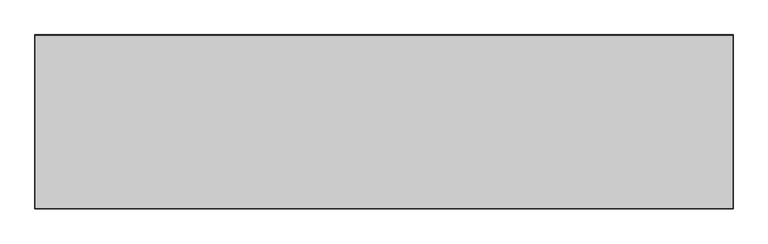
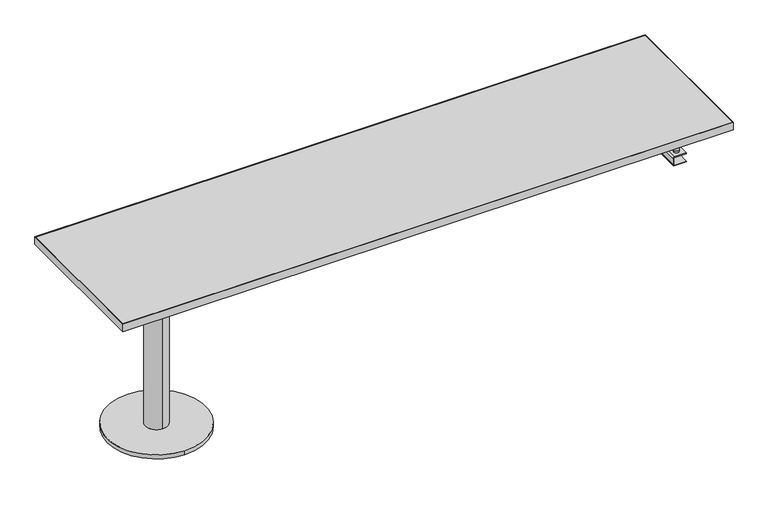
"""IFC4 building model written with IfcOpenShell, lengths in millimetres: furniture geometry, Steelcase Coalesse - Topo - Desktop - Freestanding Straight Ancillary : 96W x 24D - Left - Flat Edge."""

from ifc_helpers import new_model, si_unit, frame, origin, place, context, project, spatial, polyline, circle_curve, outline, extrude, source, transform, mapped, element, save
from ifc_brep_helpers import plane_surface, cylinder_surface, revolved_surface, advanced_brep


def furniture_8df6c61d(model_context):
    return source(origin(), model_context, "Body", "SolidModel", [
        advanced_brep(
        [(309.626, -501.6500363, 16.8148), (309.626, -107.9500363, 16.8148), (309.626, -260.3500363, 16.8148), (309.626, -349.2500363, 16.8148), (309.626, -501.6500363, 0.0), (309.626, -107.9500363, 0.0), (309.626, -349.2500363, 635.0), (309.626, -260.3500363, 635.0), (309.626, -269.8509568, 635.0), (309.626, -339.7491159, 635.0), (309.626, -339.7491159, 688.975), (309.626, -269.8509568, 688.975), (411.2261938, -203.2000242, 692.15), (208.0258062, -203.2000242, 692.15), (208.0258062, -406.4000484, 692.15), (411.2261938, -406.4000484, 692.15), (411.2261938, -203.2000242, 688.975), (411.2261938, -406.4000484, 688.975), (208.0258062, -406.4000484, 688.975), (208.0258062, -203.2000242, 688.975)],
        [
            (0, 1, circle_curve(frame((309.626, -304.8000363, 16.8148), z_axis=(0.0, 0.0, 1.0), x_axis=(0.0, 1.0, 0.0)), 196.85)),
            (1, 0, circle_curve(frame((309.626, -304.8000363, 16.8148), z_axis=(0.0, 0.0, 1.0), x_axis=(0.0, 1.0, 0.0)), 196.85)),
            (2, 3, circle_curve(frame((309.626, -304.8000363, 16.8148), z_axis=(0.0, 0.0, -1.0), x_axis=(0.0, 1.0, 0.0)), 44.45)),
            (3, 2, circle_curve(frame((309.626, -304.8000363, 16.8148), z_axis=(0.0, 0.0, -1.0), x_axis=(0.0, 1.0, 0.0)), 44.45)),
            (4, 5, circle_curve(frame((309.626, -304.8000363, 0.0), z_axis=(0.0, 0.0, -1.0), x_axis=(0.0, 1.0, 0.0)), 196.85)),
            (5, 4, circle_curve(frame((309.626, -304.8000363, 0.0), z_axis=(0.0, 0.0, -1.0), x_axis=(0.0, 1.0, 0.0)), 196.85)),
            (0, 4),
            (5, 1),
            (6, 7, circle_curve(frame((309.626, -304.8000363, 635.0), z_axis=(0.0, 0.0, 1.0), x_axis=(0.0, 1.0, 0.0)), 44.45)),
            (7, 6, circle_curve(frame((309.626, -304.8000363, 635.0), z_axis=(0.0, 0.0, 1.0), x_axis=(0.0, 1.0, 0.0)), 44.45)),
            (8, 9, circle_curve(frame((309.626, -304.8000363, 635.0), z_axis=(0.0, 0.0, -1.0), x_axis=(0.0, 1.0, 0.0)), 34.9490796)),
            (9, 8, circle_curve(frame((309.626, -304.8000363, 635.0), z_axis=(0.0, 0.0, -1.0), x_axis=(0.0, 1.0, 0.0)), 34.9490796)),
            (6, 3),
            (2, 7),
            (10, 9),
            (8, 11),
            (11, 10, circle_curve(frame((309.626, -304.8000363, 688.975), z_axis=(0.0, 0.0, -1.0), x_axis=(0.0, 1.0, 0.0)), 34.9490796)),
            (10, 11, circle_curve(frame((309.626, -304.8000363, 688.975), z_axis=(0.0, 0.0, -1.0), x_axis=(0.0, 1.0, 0.0)), 34.9490796)),
            (12, 13),
            (13, 14),
            (14, 15),
            (15, 12),
            (16, 17),
            (17, 18),
            (18, 19),
            (19, 16),
            (12, 16),
            (19, 13),
            (18, 14),
            (17, 15),
        ],
        [
            plane_surface(frame((309.626, -107.9500363, 16.8148), z_axis=(0.0, 0.0, 1.0), x_axis=(-1.0, 0.0, 0.0))),
            plane_surface(frame((309.626, -107.9500363, 0.0), z_axis=(0.0, 0.0, -1.0), x_axis=(1.0, 0.0, 0.0))),
            cylinder_surface(frame((309.626, -304.8000363, 0.0), z_axis=(0.0, 0.0, 1.0), x_axis=(0.0, 1.0, 0.0)), 196.85),
            plane_surface(frame((309.626, -260.3500363, 635.0), z_axis=(0.0, 0.0, 1.0), x_axis=(-1.0, 0.0, 0.0))),
            cylinder_surface(frame((309.626, -304.8000363, 0.0), z_axis=(0.0, 0.0, 1.0), x_axis=(0.0, 1.0, 0.0)), 44.45),
            cylinder_surface(frame((309.626, -304.8000363, 635.0), z_axis=(0.0, 0.0, 1.0), x_axis=(0.0, 1.0, 0.0)), 34.9490796),
            plane_surface(frame((208.0258062, -203.2000242, 692.15), z_axis=(0.0, 0.0, 1.0), x_axis=(-1.0, 0.0, 0.0))),
            plane_surface(frame((208.0258062, -203.2000242, 688.975), z_axis=(0.0, 0.0, -1.0), x_axis=(1.0, 0.0, 0.0))),
            plane_surface(frame((411.2261938, -203.2000242, 692.15), z_axis=(0.0, 1.0, 0.0), x_axis=(0.0, 0.0, -1.0))),
            plane_surface(frame((208.0258062, -203.2000242, 692.15), z_axis=(-1.0, 0.0, 0.0), x_axis=(0.0, 0.0, -1.0))),
            plane_surface(frame((208.0258062, -406.4000484, 692.15), z_axis=(0.0, -1.0, 0.0), x_axis=(0.0, 0.0, -1.0))),
            plane_surface(frame((411.2261938, -406.4000484, 692.15), z_axis=(1.0, 0.0, 0.0), x_axis=(0.0, 0.0, -1.0))),
        ],
        [
            (0, [[1, 2], [3, 4]]),
            (1, [[5, 6]]),
            (2, [[-1, 7, -6, 8]]),
            (2, [[-2, -8, -5, -7]]),
            (3, [[9, 10], [11, 12]]),
            (4, [[-9, 13, -3, 14]]),
            (4, [[-10, -14, -4, -13]]),
            (5, [[15, -11, 16, 17]]),
            (5, [[-15, 18, -16, -12]]),
            (6, [[19, 20, 21, 22]]),
            (7, [[23, 24, 25, 26], [-17, -18]]),
            (8, [[-19, 27, -26, 28]]),
            (9, [[-20, -28, -25, 29]]),
            (10, [[-21, -29, -24, 30]]),
            (11, [[-22, -30, -23, -27]]),
        ],
    ),
        extrude(outline(polyline([(2437.383783, -3.1750242), (2437.383783, -606.4250484), (1.016217, -606.4250484), (1.016217, -3.1750242), (2437.383783, -3.1750242)])), frame((0.0, 0.0, 692.15), z_axis=(0.0, 0.0, 1.0), x_axis=(1.0, 0.0, 0.0)), (0.0, 0.0, 1.0), 31.75),
        extrude(outline(polyline([(2438.4, 0.0), (2438.4, -609.6), (0.0, -609.6), (0.0, 0.0), (2438.4, 0.0)]), holes=[polyline([(2437.383783, -3.1750242), (1.016217, -3.1750242), (1.016217, -606.4250484), (2437.383783, -606.4250484), (2437.383783, -3.1750242)])]), frame((0.0, 0.0, 692.15), z_axis=(0.0, 0.0, 1.0), x_axis=(1.0, 0.0, 0.0)), (0.0, 0.0, 1.0), 31.75),
        extrude(outline(polyline([(-109.2200048, 691.1168589), (-127.2794, 691.1168589), (-127.2794, 682.2694), (-171.1706, 682.2694), (-171.1706, 691.1168589), (-189.2300194, 691.1168589), (-189.2300194, 692.15), (-170.18, 692.15), (-170.18, 683.304655), (-128.27, 683.304655), (-128.27, 692.15), (-109.2200048, 692.15), (-109.2200048, 691.1168589)])), frame((57.0738, 0.0, 0.0), z_axis=(1.0, 0.0, 0.0), x_axis=(0.0, 1.0, 0.0)), (0.0, 0.0, 1.0), 2324.2523581),
        extrude(outline(polyline([(-564.8960426, 691.1168589), (-564.8960426, 692.15), (-545.8460475, 692.15), (-545.8460475, 683.304655), (-503.9360475, 683.304655), (-503.9360475, 692.15), (-484.8860281, 692.15), (-484.8860281, 691.1168589), (-502.9454475, 691.1168589), (-502.9454475, 682.2694), (-546.8366475, 682.2694), (-546.8366475, 691.1168589), (-564.8960426, 691.1168589)])), frame((57.0738, 0.0, 0.0), z_axis=(1.0, 0.0, 0.0), x_axis=(0.0, 1.0, 0.0)), (0.0, 0.0, 1.0), 2324.2523581),
        advanced_brep(
        [(2330.4500969, -267.5128138, 692.15), (2266.9499031, -267.5128138, 692.15), (2266.9499031, -331.0127895, 692.15), (2330.4500969, -331.0127895, 692.15), (2330.4500969, -267.5128138, 688.975), (2330.4500969, -331.0127895, 688.975), (2266.9499031, -331.0127895, 688.975), (2266.9499031, -267.5128138, 688.975), (2298.7, -318.3128016, 688.975), (2298.7, -280.2128016, 688.975), (2298.7, -318.3128016, 655.6248), (2298.7, -280.2128016, 655.6248), (2298.7, -310.4626736, 655.6248), (2298.7, -288.0629297, 655.6248), (2298.7, -310.4626736, 621.2586), (2298.7, -288.0629297, 621.2586), (2298.7, -314.5105403, 621.2586), (2298.7, -284.015063, 621.2586), (2298.7, -314.5105403, 615.1626), (2298.7, -284.015063, 615.1626), (2298.7, -311.9628016, 615.1626), (2298.7, -286.5628016, 615.1626), (2298.7, -311.9628016, 609.4984), (2298.7, -286.5628016, 609.4984)],
        [
            (0, 1),
            (1, 2),
            (2, 3),
            (3, 0),
            (4, 5),
            (5, 6),
            (6, 7),
            (7, 4),
            (8, 9, circle_curve(frame((2298.7, -299.2628016, 688.975), z_axis=(0.0, 0.0, 1.0), x_axis=(0.0, 1.0, 0.0)), 19.05)),
            (9, 8, circle_curve(frame((2298.7, -299.2628016, 688.975), z_axis=(0.0, 0.0, 1.0), x_axis=(0.0, 1.0, 0.0)), 19.05)),
            (0, 4),
            (7, 1),
            (6, 2),
            (5, 3),
            (10, 11, circle_curve(frame((2298.7, -299.2628016, 655.6248), z_axis=(0.0, 0.0, -1.0), x_axis=(0.0, 1.0, 0.0)), 19.05)),
            (11, 10, circle_curve(frame((2298.7, -299.2628016, 655.6248), z_axis=(0.0, 0.0, -1.0), x_axis=(0.0, 1.0, 0.0)), 19.05)),
            (12, 13, circle_curve(frame((2298.7, -299.2628016, 655.6248), z_axis=(0.0, 0.0, 1.0), x_axis=(0.0, 1.0, 0.0)), 11.1998719)),
            (13, 12, circle_curve(frame((2298.7, -299.2628016, 655.6248), z_axis=(0.0, 0.0, 1.0), x_axis=(0.0, 1.0, 0.0)), 11.1998719)),
            (11, 9),
            (8, 10),
            (12, 14),
            (14, 15, circle_curve(frame((2298.7, -299.2628016, 621.2586), z_axis=(0.0, 0.0, 1.0), x_axis=(0.0, 1.0, 0.0)), 11.1998719)),
            (15, 13),
            (15, 14, circle_curve(frame((2298.7, -299.2628016, 621.2586), z_axis=(0.0, 0.0, 1.0), x_axis=(0.0, 1.0, 0.0)), 11.1998719)),
            (16, 17, circle_curve(frame((2298.7, -299.2628016, 621.2586), z_axis=(0.0, 0.0, 1.0), x_axis=(0.0, 1.0, 0.0)), 15.2477387)),
            (17, 16, circle_curve(frame((2298.7, -299.2628016, 621.2586), z_axis=(0.0, 0.0, 1.0), x_axis=(0.0, 1.0, 0.0)), 15.2477387)),
            (18, 19, circle_curve(frame((2298.7, -299.2628016, 615.1626), z_axis=(0.0, 0.0, -1.0), x_axis=(0.0, 1.0, 0.0)), 15.2477387)),
            (19, 18, circle_curve(frame((2298.7, -299.2628016, 615.1626), z_axis=(0.0, 0.0, -1.0), x_axis=(0.0, 1.0, 0.0)), 15.2477387)),
            (20, 21, circle_curve(frame((2298.7, -299.2628016, 615.1626), z_axis=(0.0, 0.0, 1.0), x_axis=(0.0, 1.0, 0.0)), 12.7)),
            (21, 20, circle_curve(frame((2298.7, -299.2628016, 615.1626), z_axis=(0.0, 0.0, 1.0), x_axis=(0.0, 1.0, 0.0)), 12.7)),
            (16, 18),
            (19, 17),
            (22, 23, circle_curve(frame((2298.7, -299.2628016, 609.4984), z_axis=(0.0, 0.0, -1.0), x_axis=(0.0, 1.0, 0.0)), 12.7)),
            (23, 22, circle_curve(frame((2298.7, -299.2628016, 609.4984), z_axis=(0.0, 0.0, -1.0), x_axis=(0.0, 1.0, 0.0)), 12.7)),
            (23, 21),
            (20, 22),
        ],
        [
            plane_surface(frame((2266.9499031, -267.5128138, 692.15), z_axis=(0.0, 0.0, 1.0), x_axis=(-1.0, 0.0, 0.0))),
            plane_surface(frame((2266.9499031, -267.5128138, 688.975), z_axis=(0.0, 0.0, -1.0), x_axis=(1.0, 0.0, 0.0))),
            plane_surface(frame((2330.4500969, -267.5128138, 692.15), z_axis=(0.0, 1.0, 0.0), x_axis=(0.0, 0.0, -1.0))),
            plane_surface(frame((2266.9499031, -267.5128138, 692.15), z_axis=(-1.0, 0.0, 0.0), x_axis=(0.0, 0.0, -1.0))),
            plane_surface(frame((2266.9499031, -331.0127895, 692.15), z_axis=(0.0, -1.0, 0.0), x_axis=(0.0, 0.0, -1.0))),
            plane_surface(frame((2330.4500969, -331.0127895, 692.15), z_axis=(1.0, 0.0, 0.0), x_axis=(0.0, 0.0, -1.0))),
            plane_surface(frame((2298.7, -280.2128016, 655.6248), z_axis=(0.0, 0.0, -1.0), x_axis=(1.0, 0.0, 0.0))),
            cylinder_surface(frame((2298.7, -299.2628016, 655.6248), z_axis=(0.0, 0.0, 1.0), x_axis=(0.0, 1.0, 0.0)), 19.05),
            cylinder_surface(frame((2298.7, -299.2628016, 621.2586), z_axis=(0.0, 0.0, 1.0), x_axis=(0.0, 1.0, 0.0)), 11.1998719),
            plane_surface(frame((2298.7, -284.015063, 621.2586), z_axis=(0.0, 0.0, 1.0), x_axis=(-1.0, 0.0, 0.0))),
            plane_surface(frame((2298.7, -284.015063, 615.1626), z_axis=(0.0, 0.0, -1.0), x_axis=(1.0, 0.0, 0.0))),
            cylinder_surface(frame((2298.7, -299.2628016, 615.1626), z_axis=(0.0, 0.0, 1.0), x_axis=(0.0, 1.0, 0.0)), 15.2477387),
            plane_surface(frame((2298.7, -286.5628016, 609.4984), z_axis=(0.0, 0.0, -1.0), x_axis=(1.0, 0.0, 0.0))),
            cylinder_surface(frame((2298.7, -299.2628016, 609.4984), z_axis=(0.0, 0.0, 1.0), x_axis=(0.0, 1.0, 0.0)), 12.7),
        ],
        [
            (0, [[1, 2, 3, 4]]),
            (1, [[5, 6, 7, 8], [9, 10]]),
            (2, [[-1, 11, -8, 12]]),
            (3, [[-2, -12, -7, 13]]),
            (4, [[-3, -13, -6, 14]]),
            (5, [[-4, -14, -5, -11]]),
            (6, [[15, 16], [17, 18]]),
            (7, [[-16, 19, -9, 20]]),
            (7, [[-15, -20, -10, -19]]),
            (8, [[21, 22, 23, -17]]),
            (8, [[-21, -18, -23, 24]]),
            (9, [[25, 26], [-22, -24]]),
            (10, [[27, 28], [29, 30]]),
            (11, [[-25, 31, -28, 32]]),
            (11, [[-26, -32, -27, -31]]),
            (12, [[33, 34]]),
            (13, [[-34, 35, -29, 36]]),
            (13, [[-33, -36, -30, -35]]),
        ],
    ),
        advanced_brep(
        [(2237.8422055, -550.2910475, 612.0384), (2232.7622153, -550.2910475, 606.9584098), (2232.7622153, -550.2910475, 580.2884171), (2237.8422323, -550.2910475, 575.2084), (2286.1019827, -550.2910475, 575.2084), (2286.1019827, -550.2910475, 577.7484), (2237.8419827, -550.2910475, 577.7484), (2235.3021765, -550.2910475, 580.2882062), (2235.3021765, -550.2910475, 606.9584098), (2237.8421667, -550.2910475, 609.4984), (2286.1019827, -550.2910475, 609.4984), (2286.1019827, -550.2910475, 612.0384), (2237.8422055, -124.840999, 612.0384), (2286.1019827, -124.840999, 612.0384), (2286.1019827, -124.840999, 609.4984), (2237.8421667, -124.840999, 609.4984), (2235.3021765, -124.840999, 606.9584098), (2235.3021765, -124.840999, 580.2882062), (2237.8419827, -124.840999, 577.7484), (2286.1019827, -124.840999, 577.7484), (2286.1019827, -124.840999, 575.2084), (2237.8422323, -124.840999, 575.2084), (2232.7622153, -124.840999, 580.2884171), (2232.7622153, -124.840999, 606.9584098), (2286.1019827, -180.7210184, 575.2084), (2241.651789, -180.7210184, 575.2084), (2241.651789, -493.3950291, 575.2084), (2286.1019827, -493.3950291, 575.2084), (2286.1019827, -493.3950291, 577.7484), (2286.1019827, -180.7210184, 577.7484), (2241.651789, -493.3950291, 577.7484), (2241.651789, -180.7210184, 577.7484), (2286.1019827, -180.7210184, 609.4984), (2241.651789, -180.7210184, 609.4984), (2241.651789, -493.3950291, 609.4984), (2286.1019827, -493.3950291, 609.4984), (2286.1019827, -493.3950291, 612.0384), (2286.1019827, -180.7210184, 612.0384), (2241.651789, -493.3950291, 612.0384), (2241.651789, -180.7210184, 612.0384), (2270.353789, -523.9179378, 612.0384), (2251.049789, -523.9179378, 612.0384), (2270.353789, -150.1981097, 612.0384), (2251.049789, -150.1981097, 612.0384), (2292.4523703, -498.4749516, 682.2694), (2228.951789, -498.4749516, 682.2694), (2222.601789, -504.8249516, 682.2694), (2222.601789, -543.010924, 682.2694), (2229.9925794, -549.2750484, 682.2694), (2291.4115798, -549.2750484, 682.2694), (2298.801789, -542.925, 682.2694), (2298.801789, -504.9108755, 682.2694), (2292.4523703, -175.6410959, 682.2694), (2298.801789, -169.2051719, 682.2694), (2298.801789, -131.1910475, 682.2694), (2291.4115798, -124.840999, 682.2694), (2229.9925794, -124.840999, 682.2694), (2222.601789, -131.1051235, 682.2694), (2222.601789, -169.2910959, 682.2694), (2228.951789, -175.6410959, 682.2694), (2292.4523703, -498.4749516, 679.0944), (2298.801789, -504.9108755, 679.0944), (2298.801789, -542.925, 679.0944), (2291.4115798, -549.2750484, 679.0944), (2229.9925794, -549.2750484, 679.0944), (2222.601789, -543.010924, 679.0944), (2222.601789, -504.8249516, 679.0944), (2228.951789, -498.4749516, 679.0944), (2271.877789, -523.9179378, 679.0944), (2249.525789, -523.9179378, 679.0944), (2292.4523703, -175.6410959, 679.0944), (2228.951789, -175.6410959, 679.0944), (2222.601789, -169.2910959, 679.0944), (2222.601789, -131.1051235, 679.0944), (2229.9925794, -124.840999, 679.0944), (2291.4115798, -124.840999, 679.0944), (2298.801789, -131.1910475, 679.0944), (2298.801789, -169.2051719, 679.0944), (2271.877789, -150.1981097, 679.0944), (2249.525789, -150.1981097, 679.0944), (2251.049789, -523.9179378, 621.2586), (2270.353789, -523.9179378, 621.2586), (2251.049789, -150.1981097, 621.2586), (2270.353789, -150.1981097, 621.2586), (2271.877789, -523.9179378, 621.2586), (2249.525789, -523.9179378, 621.2586), (2271.877789, -150.1981097, 621.2586), (2249.525789, -150.1981097, 621.2586)],
        [
            (0, 1, circle_curve(frame((2237.8422055, -550.2910475, 606.9584098), z_axis=(0.0, -1.0, 0.0), x_axis=(1.0, 0.0, 0.0)), 5.0799902)),
            (1, 2),
            (2, 3, circle_curve(frame((2237.8422323, -550.2910475, 580.2884171), z_axis=(0.0, -1.0, 0.0), x_axis=(1.0, 0.0, 0.0)), 5.0800171)),
            (3, 4),
            (4, 5),
            (5, 6),
            (6, 7, circle_curve(frame((2237.8419827, -550.2910475, 580.2882062), z_axis=(0.0, 1.0, 0.0), x_axis=(1.0, 0.0, 0.0)), 2.5398062)),
            (7, 8),
            (8, 9, circle_curve(frame((2237.8421667, -550.2910475, 606.9584098), z_axis=(0.0, 1.0, 0.0), x_axis=(1.0, 0.0, 0.0)), 2.5399902)),
            (9, 10),
            (10, 11),
            (11, 0),
            (12, 13),
            (13, 14),
            (14, 15),
            (15, 16, circle_curve(frame((2237.8421667, -124.840999, 606.9584098), z_axis=(0.0, -1.0, 0.0), x_axis=(1.0, 0.0, 0.0)), 2.5399902)),
            (16, 17),
            (17, 18, circle_curve(frame((2237.8419827, -124.840999, 580.2882062), z_axis=(0.0, -1.0, 0.0), x_axis=(1.0, 0.0, 0.0)), 2.5398062)),
            (18, 19),
            (19, 20),
            (20, 21),
            (21, 22, circle_curve(frame((2237.8422323, -124.840999, 580.2884171), z_axis=(0.0, 1.0, 0.0), x_axis=(1.0, 0.0, 0.0)), 5.0800171)),
            (22, 23),
            (23, 12, circle_curve(frame((2237.8422055, -124.840999, 606.9584098), z_axis=(0.0, 1.0, 0.0), x_axis=(1.0, 0.0, 0.0)), 5.0799902)),
            (0, 12),
            (23, 1),
            (22, 2),
            (21, 3),
            (20, 24),
            (24, 25),
            (25, 26),
            (26, 27),
            (27, 4),
            (27, 28),
            (28, 5),
            (19, 29),
            (29, 24),
            (28, 30),
            (30, 31),
            (31, 29),
            (18, 6),
            (17, 7),
            (16, 8),
            (15, 9),
            (14, 32),
            (32, 33),
            (33, 34),
            (34, 35),
            (35, 10),
            (35, 36),
            (36, 11),
            (13, 37),
            (37, 32),
            (36, 38),
            (38, 39),
            (39, 37),
            (40, 41, circle_curve(frame((2260.701789, -523.9179378, 612.0384), z_axis=(0.0, 0.0, -1.0), x_axis=(1.0, 0.0, 0.0)), 9.652)),
            (41, 40, circle_curve(frame((2260.701789, -523.9179378, 612.0384), z_axis=(0.0, 0.0, -1.0), x_axis=(1.0, 0.0, 0.0)), 9.652)),
            (42, 43, circle_curve(frame((2260.701789, -150.1981097, 612.0384), z_axis=(0.0, 0.0, -1.0), x_axis=(1.0, 0.0, 0.0)), 9.652)),
            (43, 42, circle_curve(frame((2260.701789, -150.1981097, 612.0384), z_axis=(0.0, 0.0, -1.0), x_axis=(1.0, 0.0, 0.0)), 9.652)),
            (31, 25),
            (39, 33),
            (26, 30),
            (34, 38),
            (44, 45),
            (45, 46, circle_curve(frame((2228.951789, -504.8249516, 682.2694), z_axis=(0.0, 0.0, 1.0), x_axis=(1.0, 0.0, 0.0)), 6.35)),
            (46, 47),
            (47, 48, circle_curve(frame((2228.951789, -543.010924, 682.2694), z_axis=(0.0, 0.0, 1.0), x_axis=(1.0, 0.0, 0.0)), 6.35)),
            (48, 49),
            (49, 50, circle_curve(frame((2292.4523703, -543.010924, 682.2694), z_axis=(0.0, 0.0, 1.0), x_axis=(1.0, 0.0, 0.0)), 6.35)),
            (50, 51),
            (51, 44, circle_curve(frame((2292.4523703, -504.8249516, 682.2694), z_axis=(0.0, 0.0, 1.0), x_axis=(1.0, 0.0, 0.0)), 6.35)),
            (52, 53, circle_curve(frame((2292.4523703, -169.2910959, 682.2694), z_axis=(0.0, 0.0, 1.0), x_axis=(1.0, 0.0, 0.0)), 6.35)),
            (53, 54),
            (54, 55, circle_curve(frame((2292.4523703, -131.1051235, 682.2694), z_axis=(0.0, 0.0, 1.0), x_axis=(1.0, 0.0, 0.0)), 6.35)),
            (55, 56),
            (56, 57, circle_curve(frame((2228.951789, -131.1051235, 682.2694), z_axis=(0.0, 0.0, 1.0), x_axis=(1.0, 0.0, 0.0)), 6.35)),
            (57, 58),
            (58, 59, circle_curve(frame((2228.951789, -169.2910959, 682.2694), z_axis=(0.0, 0.0, 1.0), x_axis=(1.0, 0.0, 0.0)), 6.35)),
            (59, 52),
            (60, 61, circle_curve(frame((2292.4523703, -504.8249516, 679.0944), z_axis=(0.0, 0.0, -1.0), x_axis=(1.0, 0.0, 0.0)), 6.35)),
            (61, 62),
            (62, 63, circle_curve(frame((2292.4523703, -543.010924, 679.0944), z_axis=(0.0, 0.0, -1.0), x_axis=(1.0, 0.0, 0.0)), 6.35)),
            (63, 64),
            (64, 65, circle_curve(frame((2228.951789, -543.010924, 679.0944), z_axis=(0.0, 0.0, -1.0), x_axis=(1.0, 0.0, 0.0)), 6.35)),
            (65, 66),
            (66, 67, circle_curve(frame((2228.951789, -504.8249516, 679.0944), z_axis=(0.0, 0.0, -1.0), x_axis=(1.0, 0.0, 0.0)), 6.35)),
            (67, 60),
            (68, 69, circle_curve(frame((2260.701789, -523.9179378, 679.0944), z_axis=(0.0, 0.0, 1.0), x_axis=(1.0, 0.0, 0.0)), 11.176)),
            (69, 68, circle_curve(frame((2260.701789, -523.9179378, 679.0944), z_axis=(0.0, 0.0, 1.0), x_axis=(1.0, 0.0, 0.0)), 11.176)),
            (70, 71),
            (71, 72, circle_curve(frame((2228.951789, -169.2910959, 679.0944), z_axis=(0.0, 0.0, -1.0), x_axis=(1.0, 0.0, 0.0)), 6.35)),
            (72, 73),
            (73, 74, circle_curve(frame((2228.951789, -131.1051235, 679.0944), z_axis=(0.0, 0.0, -1.0), x_axis=(1.0, 0.0, 0.0)), 6.35)),
            (74, 75),
            (75, 76, circle_curve(frame((2292.4523703, -131.1051235, 679.0944), z_axis=(0.0, 0.0, -1.0), x_axis=(1.0, 0.0, 0.0)), 6.35)),
            (76, 77),
            (77, 70, circle_curve(frame((2292.4523703, -169.2910959, 679.0944), z_axis=(0.0, 0.0, -1.0), x_axis=(1.0, 0.0, 0.0)), 6.35)),
            (78, 79, circle_curve(frame((2260.701789, -150.1981097, 679.0944), z_axis=(0.0, 0.0, 1.0), x_axis=(1.0, 0.0, 0.0)), 11.176)),
            (79, 78, circle_curve(frame((2260.701789, -150.1981097, 679.0944), z_axis=(0.0, 0.0, 1.0), x_axis=(1.0, 0.0, 0.0)), 11.176)),
            (44, 60),
            (67, 45),
            (66, 46),
            (65, 47),
            (64, 48),
            (63, 49),
            (62, 50),
            (61, 51),
            (52, 70),
            (77, 53),
            (76, 54),
            (75, 55),
            (74, 56),
            (73, 57),
            (72, 58),
            (71, 59),
            (80, 41),
            (40, 81),
            (81, 80, circle_curve(frame((2260.701789, -523.9179378, 621.2586), z_axis=(0.0, 0.0, -1.0), x_axis=(1.0, 0.0, 0.0)), 9.652)),
            (80, 81, circle_curve(frame((2260.701789, -523.9179378, 621.2586), z_axis=(0.0, 0.0, -1.0), x_axis=(1.0, 0.0, 0.0)), 9.652)),
            (82, 43),
            (42, 83),
            (83, 82, circle_curve(frame((2260.701789, -150.1981097, 621.2586), z_axis=(0.0, 0.0, -1.0), x_axis=(1.0, 0.0, 0.0)), 9.652)),
            (82, 83, circle_curve(frame((2260.701789, -150.1981097, 621.2586), z_axis=(0.0, 0.0, -1.0), x_axis=(1.0, 0.0, 0.0)), 9.652)),
            (84, 85, circle_curve(frame((2260.701789, -523.9179378, 621.2586), z_axis=(0.0, 0.0, -1.0), x_axis=(1.0, 0.0, 0.0)), 11.176)),
            (85, 84, circle_curve(frame((2260.701789, -523.9179378, 621.2586), z_axis=(0.0, 0.0, -1.0), x_axis=(1.0, 0.0, 0.0)), 11.176)),
            (86, 87, circle_curve(frame((2260.701789, -150.1981097, 621.2586), z_axis=(0.0, 0.0, -1.0), x_axis=(1.0, 0.0, 0.0)), 11.176)),
            (87, 86, circle_curve(frame((2260.701789, -150.1981097, 621.2586), z_axis=(0.0, 0.0, -1.0), x_axis=(1.0, 0.0, 0.0)), 11.176)),
            (85, 69),
            (68, 84),
            (87, 79),
            (78, 86),
        ],
        [
            plane_surface(frame((2242.9221957, -550.2910475, 606.9584098), z_axis=(0.0, -1.0, 0.0), x_axis=(0.0, 0.0, 1.0))),
            plane_surface(frame((2242.9221957, -124.840999, 606.9584098), z_axis=(0.0, 1.0, 0.0), x_axis=(0.0, 0.0, -1.0))),
            cylinder_surface(frame((2237.8422055, -124.840999, 606.9584098), z_axis=(0.0, -1.0, 0.0), x_axis=(1.0, 0.0, 0.0)), 5.0799902),
            plane_surface(frame((2232.7622153, -550.2910475, 606.9584098), z_axis=(-1.0, 0.0, 0.0), x_axis=(0.0, 1.0, 0.0))),
            cylinder_surface(frame((2237.8422323, -124.840999, 580.2884171), z_axis=(0.0, -1.0, 0.0), x_axis=(1.0, 0.0, 0.0)), 5.0800171),
            plane_surface(frame((2237.8422323, -550.2910475, 575.2084), z_axis=(0.0, 0.0, -1.0), x_axis=(0.0, 1.0, 0.0))),
            plane_surface(frame((2286.1019827, -550.2910475, 575.2084), z_axis=(1.0, 0.0, 0.0), x_axis=(0.0, 1.0, 0.0))),
            plane_surface(frame((2286.1019827, -550.2910475, 577.7484), z_axis=(0.0, 0.0, 1.0), x_axis=(0.0, 1.0, 0.0))),
            revolved_surface(polyline([(2240.3817888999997, -124.840999, 580.2882062), (2240.3817888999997, -550.2910475, 580.2882062)]), (2237.8419827, -124.840999, 580.2882062), (0.0, 1.0, 0.0)),
            plane_surface(frame((2235.3021765, -550.2910475, 580.2882062), z_axis=(1.0, 0.0, 0.0), x_axis=(0.0, 1.0, 0.0))),
            revolved_surface(polyline([(2240.3821568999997, -124.840999, 606.9584098), (2240.3821568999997, -550.2910475, 606.9584098)]), (2237.8421667, -124.840999, 606.9584098), (0.0, 1.0, 0.0)),
            plane_surface(frame((2237.8421667, -550.2910475, 609.4984), z_axis=(0.0, 0.0, -1.0), x_axis=(0.0, 1.0, 0.0))),
            plane_surface(frame((2286.1019827, -550.2910475, 609.4984), z_axis=(1.0, 0.0, 0.0), x_axis=(0.0, 1.0, 0.0))),
            plane_surface(frame((2286.1019827, -550.2910475, 612.0384), z_axis=(0.0, 0.0, 1.0), x_axis=(0.0, 1.0, 0.0))),
            plane_surface(frame((2241.651789, -180.7210184, 575.2084), z_axis=(0.0, -1.0, 0.0), x_axis=(0.0, 0.0, 1.0))),
            plane_surface(frame((2286.1019827, -493.3950291, 575.2084), z_axis=(0.0, 1.0, 0.0), x_axis=(0.0, 0.0, 1.0))),
            plane_surface(frame((2241.651789, -493.3950291, 575.2084), z_axis=(1.0, 0.0, 0.0), x_axis=(0.0, 0.0, 1.0))),
            plane_surface(frame((2228.951789, -498.4749516, 682.2694), z_axis=(0.0, 0.0, 1.0), x_axis=(-1.0, 0.0, 0.0))),
            plane_surface(frame((2228.951789, -498.4749516, 679.0944), z_axis=(0.0, 0.0, -1.0), x_axis=(1.0, 0.0, 0.0))),
            plane_surface(frame((2292.4523703, -498.4749516, 682.2694), z_axis=(0.0, 1.0, 0.0), x_axis=(0.0, 0.0, -1.0))),
            cylinder_surface(frame((2228.951789, -504.8249516, 679.0944), z_axis=(0.0, 0.0, 1.0), x_axis=(1.0, 0.0, 0.0)), 6.35),
            plane_surface(frame((2222.601789, -504.8249516, 682.2694), z_axis=(-1.0, 0.0, 0.0), x_axis=(0.0, 0.0, -1.0))),
            cylinder_surface(frame((2228.951789, -543.010924, 679.0944), z_axis=(0.0, 0.0, 1.0), x_axis=(1.0, 0.0, 0.0)), 6.35),
            plane_surface(frame((2229.9925794, -549.2750484, 682.2694), z_axis=(0.0, -1.0, 0.0), x_axis=(0.0, 0.0, -1.0))),
            cylinder_surface(frame((2292.4523703, -543.010924, 679.0944), z_axis=(0.0, 0.0, 1.0), x_axis=(1.0, 0.0, 0.0)), 6.35),
            plane_surface(frame((2298.801789, -542.925, 682.2694), z_axis=(1.0, 0.0, 0.0), x_axis=(0.0, 0.0, -1.0))),
            cylinder_surface(frame((2292.4523703, -504.8249516, 679.0944), z_axis=(0.0, 0.0, 1.0), x_axis=(1.0, 0.0, 0.0)), 6.35),
            cylinder_surface(frame((2292.4523703, -169.2910959, 0.0), z_axis=(0.0, 0.0, 1.0), x_axis=(1.0, 0.0, 0.0)), 6.35),
            plane_surface(frame((2298.801789, -169.2051719, 682.2694), z_axis=(1.0, 0.0, 0.0), x_axis=(0.0, 0.0, -1.0))),
            cylinder_surface(frame((2292.4523703, -131.1051235, 0.0), z_axis=(0.0, 0.0, 1.0), x_axis=(1.0, 0.0, 0.0)), 6.35),
            plane_surface(frame((2291.4115798, -124.840999, 682.2694), z_axis=(0.0, 1.0, 0.0), x_axis=(0.0, 0.0, -1.0))),
            cylinder_surface(frame((2228.951789, -131.1051235, 0.0), z_axis=(0.0, 0.0, 1.0), x_axis=(1.0, 0.0, 0.0)), 6.35),
            plane_surface(frame((2222.601789, -131.1051235, 682.2694), z_axis=(-1.0, 0.0, 0.0), x_axis=(0.0, 0.0, -1.0))),
            cylinder_surface(frame((2228.951789, -169.2910959, 0.0), z_axis=(0.0, 0.0, 1.0), x_axis=(1.0, 0.0, 0.0)), 6.35),
            plane_surface(frame((2228.951789, -175.6410959, 682.2694), z_axis=(0.0, -1.0, 0.0), x_axis=(0.0, 0.0, -1.0))),
            cylinder_surface(frame((2260.701789, -523.9179378, 612.0384), z_axis=(0.0, 0.0, 1.0), x_axis=(1.0, 0.0, 0.0)), 9.652),
            cylinder_surface(frame((2260.701789, -150.1981097, 0.0), z_axis=(0.0, 0.0, 1.0), x_axis=(1.0, 0.0, 0.0)), 9.652),
            plane_surface(frame((2271.877789, -523.9179378, 621.2586), z_axis=(0.0, 0.0, -1.0), x_axis=(0.0, -1.0, 0.0))),
            cylinder_surface(frame((2260.701789, -523.9179378, 621.2586), z_axis=(0.0, 0.0, 1.0), x_axis=(1.0, 0.0, 0.0)), 11.176),
            cylinder_surface(frame((2260.701789, -150.1981097, 0.0), z_axis=(0.0, 0.0, 1.0), x_axis=(1.0, 0.0, 0.0)), 11.176),
        ],
        [
            (0, [[1, 2, 3, 4, 5, 6, 7, 8, 9, 10, 11, 12]]),
            (1, [[13, 14, 15, 16, 17, 18, 19, 20, 21, 22, 23, 24]]),
            (2, [[-1, 25, -24, 26]]),
            (3, [[-2, -26, -23, 27]]),
            (4, [[-3, -27, -22, 28]]),
            (5, [[-4, -28, -21, 29, 30, 31, 32, 33]]),
            (6, [[-5, -33, 34, 35]]),
            (6, [[-20, 36, 37, -29]]),
            (7, [[-6, -35, 38, 39, 40, -36, -19, 41]]),
            (8, [[-7, -41, -18, 42]]),
            (9, [[-8, -42, -17, 43]]),
            (10, [[-9, -43, -16, 44]]),
            (11, [[-10, -44, -15, 45, 46, 47, 48, 49]]),
            (12, [[-11, -49, 50, 51]]),
            (12, [[-14, 52, 53, -45]]),
            (13, [[-12, -51, 54, 55, 56, -52, -13, -25], [57, 58], [59, 60]]),
            (14, [[61, -30, -37, -40]]),
            (14, [[62, -46, -53, -56]]),
            (15, [[63, -38, -34, -32]]),
            (15, [[64, -54, -50, -48]]),
            (16, [[-61, -39, -63, -31]]),
            (16, [[-62, -55, -64, -47]]),
            (17, [[65, 66, 67, 68, 69, 70, 71, 72]]),
            (17, [[73, 74, 75, 76, 77, 78, 79, 80]]),
            (18, [[81, 82, 83, 84, 85, 86, 87, 88], [89, 90]]),
            (18, [[91, 92, 93, 94, 95, 96, 97, 98], [99, 100]]),
            (19, [[-65, 101, -88, 102]]),
            (20, [[-66, -102, -87, 103]]),
            (21, [[-67, -103, -86, 104]]),
            (22, [[-68, -104, -85, 105]]),
            (23, [[-69, -105, -84, 106]]),
            (24, [[-70, -106, -83, 107]]),
            (25, [[-71, -107, -82, 108]]),
            (26, [[-72, -108, -81, -101]]),
            (27, [[-73, 109, -98, 110]]),
            (28, [[-74, -110, -97, 111]]),
            (29, [[-75, -111, -96, 112]]),
            (30, [[-76, -112, -95, 113]]),
            (31, [[-77, -113, -94, 114]]),
            (32, [[-78, -114, -93, 115]]),
            (33, [[-79, -115, -92, 116]]),
            (34, [[-80, -116, -91, -109]]),
            (35, [[117, -57, 118, 119]]),
            (35, [[-117, 120, -118, -58]]),
            (36, [[121, -59, 122, 123]]),
            (36, [[-121, 124, -122, -60]]),
            (37, [[125, 126], [-119, -120]]),
            (37, [[127, 128], [-123, -124]]),
            (38, [[-126, 129, -89, 130]]),
            (38, [[-125, -130, -90, -129]]),
            (39, [[-128, 131, -99, 132]]),
            (39, [[-127, -132, -100, -131]]),
        ],
    ),
    ])


if __name__ == "__main__":
    model = new_model("IFC4")
    model_context = context("Model", 3, world=origin())
    ifc_project = project(units=[si_unit("LENGTHUNIT", "METRE", prefix="MILLI")], contexts=[model_context])
    site = spatial("IfcSite", under=ifc_project)
    building = spatial("IfcBuilding", under=site)
    placement = place(None, origin())
    furniture_shape = furniture_8df6c61d(model_context)
    element("IfcFurniture", 1, ObjectType="Steelcase Coalesse - Topo - Desktop - Freestanding Straight Ancillary : 96W x 24D - Left - Flat Edge", at=placement, inside=building, context=model_context, shape_type="MappedRepresentation", body=[
        mapped(furniture_shape, transform((0.0, 0.0, 0.0), x_axis=(1.0, 0.0, 0.0), y_axis=(0.0, 1.0, 0.0), z_axis=(0.0, 0.0, 1.0))),
    ])
    save(model, "model.ifc")
